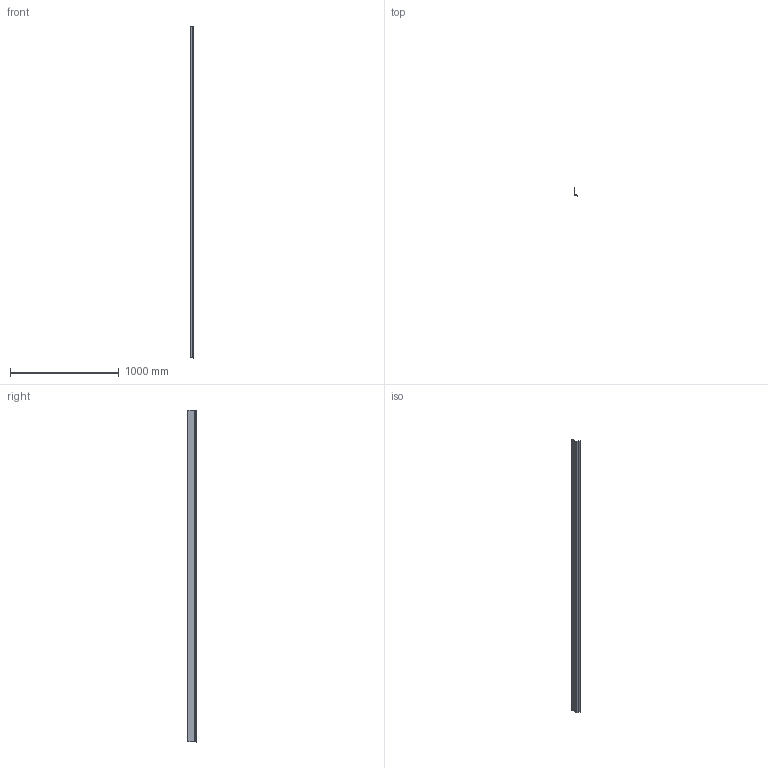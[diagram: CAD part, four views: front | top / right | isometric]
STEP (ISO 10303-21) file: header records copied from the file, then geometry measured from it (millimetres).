
FILE_DESCRIPTION (( 'STEP AP203' ), '1' );
FILE_NAME ('M52G.STEP', '2018-06-15T15:15:42', ( 'Michael Moliner' ), ( '' ), 'SwSTEP 2.0', 'SolidWorks 2018', '' );
FILE_SCHEMA (( 'CONFIG_CONTROL_DESIGN' ));
Length unit declared in the file: inch
Products named in the file (2): M52G
Bounding box: 33.77 x 76.42 x 3048 mm (x, y, z)
Volume: 179149.7 mm3; surface area: 708528 mm2
Topology: 1 solids, 1 shells, 18 faces, 48 edges, 32 vertices
Faces by surface type: plane 12, cylinder 6
Entity records: 721 total; most frequent: CARTESIAN_POINT 100, DIRECTION 100, ORIENTED_EDGE 96, EDGE_CURVE 48, VECTOR 36, LINE 36, AXIS2_PLACEMENT_3D 32, VERTEX_POINT 32
